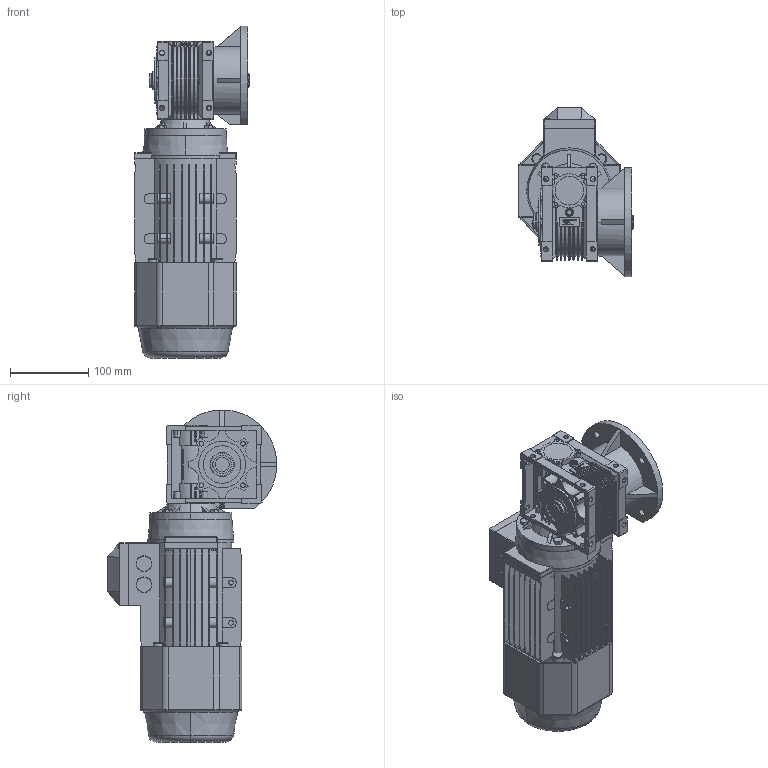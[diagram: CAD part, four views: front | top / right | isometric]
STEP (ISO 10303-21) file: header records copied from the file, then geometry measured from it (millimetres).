
FILE_DESCRIPTION (( 'STEP AP214' ), '1' );
FILE_NAME ('STP_NMRV040_单向输出轴SS1_18_71B14_FC_71_YVF2_1_无_输出法兰FC1_无或C2_无或C2_无.step', '2023-06-15T03:05:44', ( 'Windows 用户' ), ( '' ), 'SwSTEP 2.0', 'SolidWorks 2016', '' );
FILE_SCHEMA (( 'AUTOMOTIVE_DESIGN' ));
Length unit declared in the file: millimetre
Products named in the file (3): STP_NMRV040_单向输出轴SS1_18_71B14_FC_71_YVF2_1_无_输出法兰FC1_无或C2_无或C2_无_NMRV_NMRV040; STP_NMRV040_单向输出轴SS1_18_71B14_FC_71_YVF2_1_无_输出法兰FC1_无或C2_无或C2_无_IEC电机_YVF2-0.25-4P; STP_NMRV040_单向输出轴SS1_18_71B14_FC_71_YVF2_1_无_输出法兰FC1_无或C2_无或C2_无
Assembly tree (2 placements, depth 2):
  STP_NMRV040_单向输出轴SS1_18_71B14_FC_71_YVF2_1_无_输出法兰FC1_无或C2_无或C2_无
    STP_NMRV040_单向输出轴SS1_18_71B14_FC_71_YVF2_1_无_输出法兰FC1_无或C2_无或C2_无_NMRV_NMRV040
    STP_NMRV040_单向输出轴SS1_18_71B14_FC_71_YVF2_1_无_输出法兰FC1_无或C2_无或C2_无_IEC电机_YVF2-0.25-4P
Bounding box: 147 x 216.85 x 424.74 mm (x, y, z)
Volume: 3812585.6 mm3; surface area: 580963.1 mm2
Topology: 6 solids, 6 shells, 3029 faces, 8024 edges, 5109 vertices
Faces by surface type: plane 1602, cylinder 702, bspline 435, sphere 135, torus 96, cone 59
Entity records: 114342 total; most frequent: CARTESIAN_POINT 40457, ORIENTED_EDGE 15882, DIRECTION 13726, EDGE_CURVE 7941, VERTEX_POINT 5107, VECTOR 5078, LINE 5078, AXIS2_PLACEMENT_3D 4324
